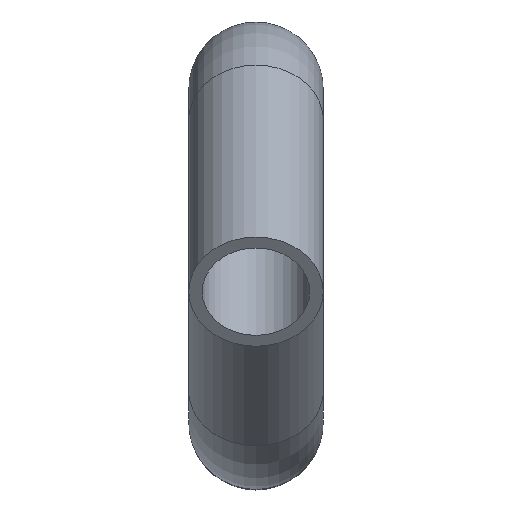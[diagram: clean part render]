
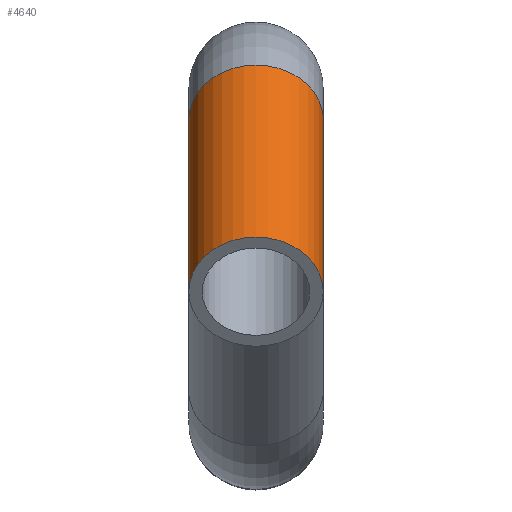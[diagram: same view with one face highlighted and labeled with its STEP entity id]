
A CAD part, top view. The second image highlights one B-rep face of the part: STEP entity #4640.
In plain terms, the highlighted cylindrical face has radius 7.5 mm (diameter 15 mm), a partial arc.
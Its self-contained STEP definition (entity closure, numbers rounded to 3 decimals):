
#2840=CARTESIAN_POINT('',(41.991,83.248,111.546));
#2850=VERTEX_POINT('',#2840);
#2940=CARTESIAN_POINT('',(56.991,83.248,111.546));
#2950=VERTEX_POINT('',#2940);
#2980=CARTESIAN_POINT('',(49.491,83.248,111.546));
#2990=DIRECTION('',(0.,-0.586,0.81));
#3000=DIRECTION('',(1.,0.,0.));
#3010=AXIS2_PLACEMENT_3D('',#2980,#2990,#3000);
#3020=CIRCLE('',#3010,7.5);
#3030=EDGE_CURVE('',#2950,#2850,#3020,.T.);
#3420=CARTESIAN_POINT('',(49.491,83.248,111.546));
#3430=DIRECTION('',(0.,-0.586,0.81));
#3440=DIRECTION('',(1.,0.,0.));
#3450=AXIS2_PLACEMENT_3D('',#3420,#3430,#3440);
#3460=CYLINDRICAL_SURFACE('',#3450,7.5);
#3470=CARTESIAN_POINT('',(56.991,83.248,111.546));
#3480=DIRECTION('',(0.,-0.586,0.81));
#3490=VECTOR('',#3480,1.);
#3500=LINE('',#3470,#3490);
#3510=CARTESIAN_POINT('',(56.991,64.03,138.127));
#3520=VERTEX_POINT('',#3510);
#3530=EDGE_CURVE('',#2950,#3520,#3500,.T.);
#3570=CARTESIAN_POINT('',(41.991,83.248,111.546));
#3580=DIRECTION('',(0.,-0.586,0.81));
#3590=VECTOR('',#3580,1.);
#3600=LINE('',#3570,#3590);
#3610=CARTESIAN_POINT('',(41.991,64.03,138.127));
#3620=VERTEX_POINT('',#3610);
#3630=EDGE_CURVE('',#2850,#3620,#3600,.T.);
#3650=CARTESIAN_POINT('',(49.491,64.03,138.127));
#3660=DIRECTION('',(0.,-0.586,0.81));
#3670=DIRECTION('',(1.,0.,0.));
#3680=AXIS2_PLACEMENT_3D('',#3650,#3660,#3670);
#3690=CIRCLE('',#3680,7.5);
#3800=EDGE_CURVE('',#3520,#3620,#3690,.T.);
#4580=ORIENTED_EDGE('',*,*,#3530,.F.);
#4590=ORIENTED_EDGE('',*,*,#3800,.F.);
#4600=ORIENTED_EDGE('',*,*,#3630,.T.);
#4610=ORIENTED_EDGE('',*,*,#3030,.T.);
#4620=EDGE_LOOP('',(#4610,#4600,#4590,#4580));
#4630=FACE_OUTER_BOUND('',#4620,.T.);
#4640=ADVANCED_FACE('',(#4630),#3460,.T.);
